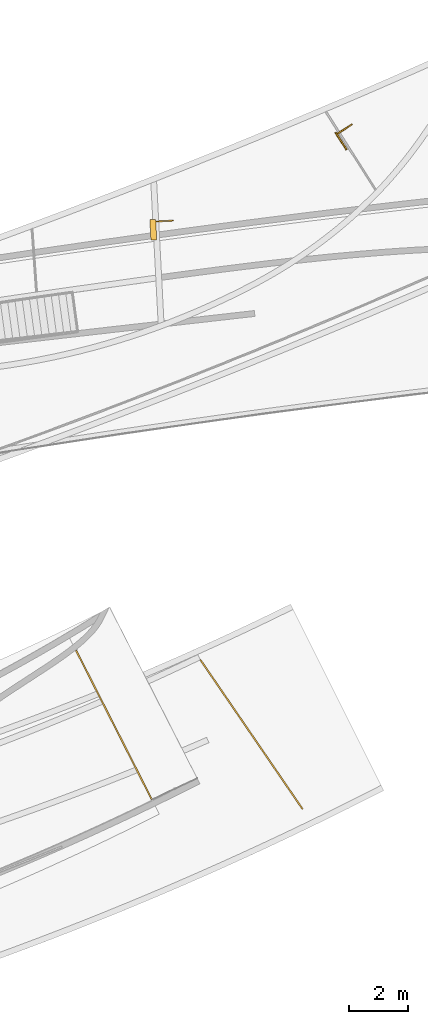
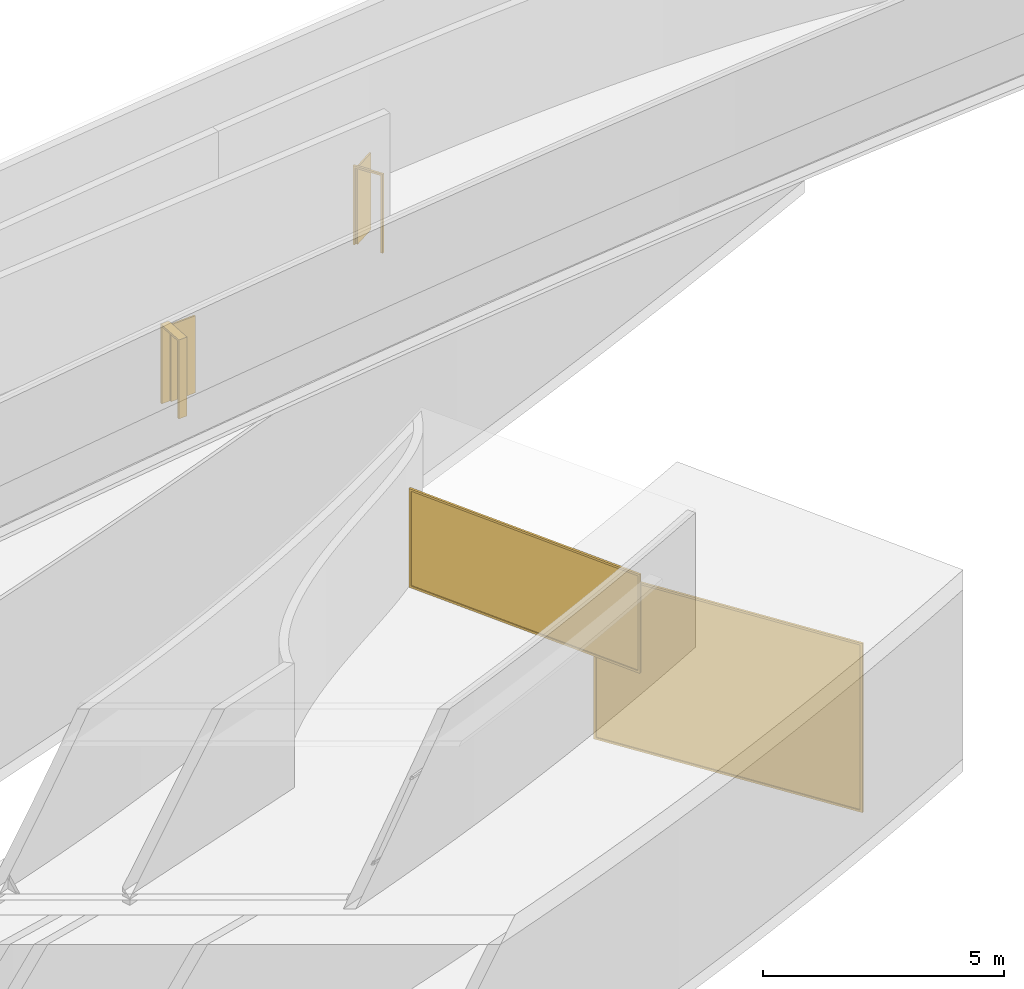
# Not in any storey, part 14 of 16: 2 curtain walls, 2 doors.
"""IFC2X3 model written with IfcOpenShell, lengths in millimetres."""

from ifc_helpers import new_model, entity, si_unit, converted_unit, direction, frame, origin_with_axes, place, context, project, spatial, open_shell, faceted_brep, surface_model, source, transform, mapped, type_object, element, save


model = new_model("IFC2X3")

# Units and contexts
model_context = context("Model", 3, precision=1.0, world=origin_with_axes(), true_north=direction((0.0, 1.0)))
ifc_project = project(units=[converted_unit("PLANEANGLEUNIT", "DEGREE", entity("IfcRatioMeasure", 0.017453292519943), si_unit("PLANEANGLEUNIT", "RADIAN"), dimensions=[0, 0, 0, 0, 0, 0, 0]), si_unit("LENGTHUNIT", "METRE", prefix="MILLI")], contexts=[model_context])

# Site
site_placement = place(None, origin_with_axes())
site = spatial("IfcSite", under=ifc_project, at=site_placement, Name="Site", CompositionType="ELEMENT")

# Doors
door_style_1 = type_object("IfcDoorStyle", Name="Hinged", ConstructionType="NOTDEFINED", OperationType="SINGLE_SWING_LEFT", ParameterTakesPrecedence=True, Sizeable=False)
shared_shape_1 = source(origin_with_axes(), model_context, "Body", "Brep", [
    faceted_brep([(-260.0, 700.0, 0.0), (-300.0, 700.0, 0.0), (-300.0, 700.0, 975.0), (-300.0, 700.0, 1950.0), (-260.0, 700.0, 1950.0), (-260.0, 700.0, 975.0), (-260.0, 100.0, 1950.0), (-300.0, 100.0, 1950.0), (-300.0, 100.0, 975.0), (-300.0, 100.0, 0.0), (-260.0, 100.0, 0.0), (-260.0, 100.0, 975.0), (-300.0, 700.0, 0.0), (-300.0, 400.0, 0.0), (-300.0, 100.0, 0.0), (-300.0, 100.0, 975.0), (-300.0, 100.0, 1950.0), (-300.0, 400.0, 1950.0), (-300.0, 700.0, 1950.0), (-300.0, 700.0, 975.0), (-260.0, 100.0, 0.0), (-300.0, 100.0, 0.0), (-300.0, 400.0, 0.0), (-300.0, 700.0, 0.0), (-260.0, 700.0, 0.0), (-260.0, 400.0, 0.0), (-260.0, 700.0, 1950.0), (-300.0, 700.0, 1950.0), (-300.0, 400.0, 1950.0), (-300.0, 100.0, 1950.0), (-260.0, 100.0, 1950.0), (-260.0, 400.0, 1950.0), (-260.0, 700.0, 975.0), (-260.0, 700.0, 1950.0), (-260.0, 400.0, 1950.0), (-260.0, 100.0, 1950.0), (-260.0, 100.0, 975.0), (-260.0, 100.0, 0.0), (-260.0, 400.0, 0.0), (-260.0, 700.0, 0.0)], [[[0, 1, 2, 3, 4, 5]], [[6, 7, 8, 9, 10, 11]], [[12, 13, 14, 15, 16, 17, 18, 19]], [[20, 21, 22, 23, 24, 25]], [[26, 27, 28, 29, 30, 31]], [[32, 33, 34, 35, 36, 37, 38, 39]]]),
    faceted_brep([(-300.0, -100.0, 975.0), (-300.0, -100.0, 0.0), (-300.0, 0.0, 0.0), (-300.0, 100.0, 0.0), (-300.0, 100.0, 975.0), (-300.0, 100.0, 1950.0), (-300.0, -100.0, 1950.0), (300.0, -100.0, 1950.0), (300.0, 100.0, 1950.0), (300.0, 100.0, 975.0), (300.0, 100.0, 0.0), (300.0, -1.819e-12, 0.0), (300.0, -100.0, 0.0), (300.0, -100.0, 975.0), (-300.0, -100.0, 1950.0), (-300.0, 100.0, 1950.0), (-9.09e-13, 100.0, 1950.0), (300.0, 100.0, 1950.0), (300.0, -100.0, 1950.0), (-9.09e-13, -100.0, 1950.0), (300.0, -100.0, 0.0), (350.0, -100.0, 0.0), (350.0, -100.0, 1000.0), (350.0, -100.0, 2000.0), (-1.819e-12, -100.0, 2000.0), (-350.0, -100.0, 2000.0), (-350.0, -100.0, 1000.0), (-350.0, -100.0, 0.0), (-300.0, -100.0, 0.0), (-300.0, -100.0, 975.0), (-300.0, -100.0, 1950.0), (-9.09e-13, -100.0, 1950.0), (300.0, -100.0, 1950.0), (300.0, -100.0, 975.0), (350.0, -100.0, 0.0), (300.0, -100.0, 0.0), (300.0, -1.819e-12, 0.0), (300.0, 100.0, 0.0), (350.0, 100.0, 0.0), (350.0, 0.0, 0.0), (-350.0, -100.0, 2000.0), (-350.0, 100.0, 2000.0), (-350.0, 100.0, 1000.0), (-350.0, 100.0, 0.0), (-350.0, -1.819e-12, 0.0), (-350.0, -100.0, 0.0), (-350.0, -100.0, 1000.0), (350.0, -100.0, 1000.0), (350.0, -100.0, 0.0), (350.0, 0.0, 0.0), (350.0, 100.0, 0.0), (350.0, 100.0, 1000.0), (350.0, 100.0, 2000.0), (350.0, -100.0, 2000.0), (-300.0, -100.0, 0.0), (-350.0, -100.0, 0.0), (-350.0, -1.819e-12, 0.0), (-350.0, 100.0, 0.0), (-300.0, 100.0, 0.0), (-300.0, 0.0, 0.0), (350.0, -100.0, 2000.0), (350.0, 100.0, 2000.0), (-1.819e-12, 100.0, 2000.0), (-350.0, 100.0, 2000.0), (-350.0, -100.0, 2000.0), (-1.819e-12, -100.0, 2000.0), (350.0, 100.0, 0.0), (300.0, 100.0, 0.0), (300.0, 100.0, 975.0), (300.0, 100.0, 1950.0), (-9.09e-13, 100.0, 1950.0), (-300.0, 100.0, 1950.0), (-300.0, 100.0, 975.0), (-300.0, 100.0, 0.0), (-350.0, 100.0, 0.0), (-350.0, 100.0, 1000.0), (-350.0, 100.0, 2000.0), (-1.819e-12, 100.0, 2000.0), (350.0, 100.0, 2000.0), (350.0, 100.0, 1000.0)], [[[0, 1, 2, 3, 4, 5, 6]], [[7, 8, 9, 10, 11, 12, 13]], [[14, 15, 16, 17, 18, 19]], [[20, 21, 22, 23, 24, 25, 26, 27, 28, 29, 30, 31, 32, 33]], [[34, 35, 36, 37, 38, 39]], [[40, 41, 42, 43, 44, 45, 46]], [[47, 48, 49, 50, 51, 52, 53]], [[54, 55, 56, 57, 58, 59]], [[60, 61, 62, 63, 64, 65]], [[66, 67, 68, 69, 70, 71, 72, 73, 74, 75, 76, 77, 78, 79]]]),
])
door_1_placement = place(site_placement, frame((21443.022780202, 11840.6734797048, 4720.0), z_axis=(0.0, 0.0, 1.0), x_axis=(0.052079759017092, -0.998642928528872, 0.0)))
element("IfcDoor", 1, at=door_1_placement, inside=site, type_object=door_style_1, ObjectType="Hinged", OverallHeight=2000.0, OverallWidth=700.0, context=model_context, shape_type="MappedRepresentation", body=[
    mapped(shared_shape_1, transform((0.0, 0.0, 0.0))),
])
door_style_2 = type_object("IfcDoorStyle", Name="Hinged", ConstructionType="NOTDEFINED", OperationType="SINGLE_SWING_RIGHT", ParameterTakesPrecedence=True, Sizeable=False)
shared_shape_2 = source(origin_with_axes(), model_context, "Body", "Brep", [
    faceted_brep([(-260.0, 625.0, 0.0), (-300.0, 625.0, 0.0), (-300.0, 625.0, 975.0), (-300.0, 625.0, 1950.0), (-260.0, 625.0, 1950.0), (-260.0, 625.0, 975.0), (-260.0, 625.0, 1950.0), (-300.0, 625.0, 1950.0), (-300.0, 325.0, 1950.0), (-300.0, 25.0, 1950.0), (-260.0, 25.0, 1950.0), (-260.0, 325.0, 1950.0), (-260.0, 25.0, 0.0), (-300.0, 25.0, 0.0), (-300.0, 325.0, 0.0), (-300.0, 625.0, 0.0), (-260.0, 625.0, 0.0), (-260.0, 325.0, 0.0), (-260.0, 625.0, 975.0), (-260.0, 625.0, 1950.0), (-260.0, 325.0, 1950.0), (-260.0, 25.0, 1950.0), (-260.0, 25.0, 975.0), (-260.0, 25.0, 0.0), (-260.0, 325.0, 0.0), (-260.0, 625.0, 0.0), (-300.0, 625.0, 0.0), (-300.0, 325.0, 0.0), (-300.0, 25.0, 0.0), (-300.0, 25.0, 975.0), (-300.0, 25.0, 1950.0), (-300.0, 325.0, 1950.0), (-300.0, 625.0, 1950.0), (-300.0, 625.0, 975.0), (-260.0, 25.0, 1950.0), (-300.0, 25.0, 1950.0), (-300.0, 25.0, 975.0), (-300.0, 25.0, 0.0), (-260.0, 25.0, 0.0), (-260.0, 25.0, 975.0)], [[[0, 1, 2, 3, 4, 5]], [[6, 7, 8, 9, 10, 11]], [[12, 13, 14, 15, 16, 17]], [[18, 19, 20, 21, 22, 23, 24, 25]], [[26, 27, 28, 29, 30, 31, 32, 33]], [[34, 35, 36, 37, 38, 39]]]),
    faceted_brep([(-325.0, -25.0, 0.0), (-350.0, -25.0, 0.0), (-350.0, 5.457e-12, 0.0), (-350.0, 25.0, 0.0), (-325.0, 25.0, 0.0), (-300.0, 25.0, 0.0), (-300.0, 1.819e-12, 0.0), (-300.0, -25.0, 0.0), (-300.0, -25.0, 1950.0), (-300.0, 25.0, 1950.0), (9.09e-13, 25.0, 1950.0), (300.0, 25.0, 1950.0), (300.0, -25.0, 1950.0), (9.09e-13, -25.0, 1950.0), (-350.0, -25.0, 2000.0), (-350.0, 25.0, 2000.0), (-350.0, 25.0, 1000.0), (-350.0, 25.0, 0.0), (-350.0, 5.457e-12, 0.0), (-350.0, -25.0, 0.0), (-350.0, -25.0, 1000.0), (350.0, -25.0, 0.0), (350.0, -25.0, 1000.0), (350.0, -25.0, 2000.0), (9.09e-13, -25.0, 2000.0), (-350.0, -25.0, 2000.0), (-350.0, -25.0, 1000.0), (-350.0, -25.0, 0.0), (-325.0, -25.0, 0.0), (-300.0, -25.0, 0.0), (-300.0, -25.0, 975.0), (-300.0, -25.0, 1950.0), (9.09e-13, -25.0, 1950.0), (300.0, -25.0, 1950.0), (300.0, -25.0, 975.0), (300.0, -25.0, 0.0), (325.0, -25.0, 0.0), (300.0, -25.0, 1950.0), (300.0, 25.0, 1950.0), (300.0, 25.0, 975.0), (300.0, 25.0, 0.0), (300.0, 7.276e-12, 0.0), (300.0, -25.0, 0.0), (300.0, -25.0, 975.0), (-300.0, -25.0, 975.0), (-300.0, -25.0, 0.0), (-300.0, 1.819e-12, 0.0), (-300.0, 25.0, 0.0), (-300.0, 25.0, 975.0), (-300.0, 25.0, 1950.0), (-300.0, -25.0, 1950.0), (350.0, -25.0, 1000.0), (350.0, -25.0, 0.0), (350.0, 3.638e-12, 0.0), (350.0, 25.0, 0.0), (350.0, 25.0, 1000.0), (350.0, 25.0, 2000.0), (350.0, -25.0, 2000.0), (325.0, -25.0, 0.0), (300.0, -25.0, 0.0), (300.0, 7.276e-12, 0.0), (300.0, 25.0, 0.0), (325.0, 25.0, 0.0), (350.0, 25.0, 0.0), (350.0, 3.638e-12, 0.0), (350.0, -25.0, 0.0), (350.0, -25.0, 2000.0), (350.0, 25.0, 2000.0), (0.0, 25.0, 2000.0), (-350.0, 25.0, 2000.0), (-350.0, -25.0, 2000.0), (9.09e-13, -25.0, 2000.0), (350.0, 25.0, 1000.0), (350.0, 25.0, 0.0), (325.0, 25.0, 0.0), (300.0, 25.0, 0.0), (300.0, 25.0, 975.0), (300.0, 25.0, 1950.0), (9.09e-13, 25.0, 1950.0), (-300.0, 25.0, 1950.0), (-300.0, 25.0, 975.0), (-300.0, 25.0, 0.0), (-325.0, 25.0, 0.0), (-350.0, 25.0, 0.0), (-350.0, 25.0, 1000.0), (-350.0, 25.0, 2000.0), (0.0, 25.0, 2000.0), (350.0, 25.0, 2000.0)], [[[0, 1, 2, 3, 4, 5, 6, 7]], [[8, 9, 10, 11, 12, 13]], [[14, 15, 16, 17, 18, 19, 20]], [[21, 22, 23, 24, 25, 26, 27, 28, 29, 30, 31, 32, 33, 34, 35, 36]], [[37, 38, 39, 40, 41, 42, 43]], [[44, 45, 46, 47, 48, 49, 50]], [[51, 52, 53, 54, 55, 56, 57]], [[58, 59, 60, 61, 62, 63, 64, 65]], [[66, 67, 68, 69, 70, 71]], [[72, 73, 74, 75, 76, 77, 78, 79, 80, 81, 82, 83, 84, 85, 86, 87]]]),
])
door_2_placement = place(site_placement, frame((27846.3012722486, 14866.1802078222, 4720.0), z_axis=(0.0, 0.0, 1.0), x_axis=(0.536349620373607, -0.843995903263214, 0.0)))
element("IfcDoor", 2, at=door_2_placement, inside=site, type_object=door_style_2, ObjectType="Hinged", OverallHeight=2000.0, OverallWidth=700.0, context=model_context, shape_type="MappedRepresentation", body=[
    mapped(shared_shape_2, transform((0.0, 0.0, 0.0))),
])

# Curtain walls
curtain_wall_type = type_object("IfcCurtainWallType", Name="Single Panel", PredefinedType="USERDEFINED")
shared_shape_3 = source(origin_with_axes(), model_context, "Body", "Brep", [
    faceted_brep([(21374.837890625, -7602.81494140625, 9900.0), (21397.12890625, -7591.494140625, 9900.0), (21419.41796875, -7580.1728515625, 9900.0), (21396.775390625, -7535.59326171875, 9900.0), (20125.833984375, -5033.27392578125, 9900.0), (18854.890625, -2530.9541015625, 9900.0), (18832.248046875, -2486.37451171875, 9900.0), (18809.958984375, -2497.69580078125, 9900.0), (18787.669921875, -2509.01684570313, 9900.0), (18810.3125, -2553.59619140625, 9900.0), (20081.25390625, -5055.916015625, 9900.0), (21352.197265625, -7558.23583984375, 9900.0), (21374.837890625, -7602.81494140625, 9850.0), (21374.837890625, -7602.81494140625, 9900.0), (21352.197265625, -7558.23583984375, 9900.0), (20081.25390625, -5055.916015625, 9900.0), (18810.3125, -2553.59619140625, 9900.0), (18787.669921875, -2509.01684570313, 9900.0), (18787.669921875, -2509.01684570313, 9850.0), (20081.25390625, -5055.916015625, 9850.0), (21419.41796875, -7580.1728515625, 9850.0), (21397.12890625, -7591.494140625, 9850.0), (21374.837890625, -7602.81494140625, 9850.0), (20081.25390625, -5055.916015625, 9850.0), (18787.669921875, -2509.01684570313, 9850.0), (18809.958984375, -2497.69580078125, 9850.0), (18832.248046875, -2486.37451171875, 9850.0), (20125.833984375, -5033.27392578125, 9850.0), (21419.41796875, -7580.1728515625, 9900.0), (21419.41796875, -7580.1728515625, 9850.0), (20125.833984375, -5033.27392578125, 9850.0), (18832.248046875, -2486.37451171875, 9850.0), (18832.248046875, -2486.37451171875, 9900.0), (18854.890625, -2530.9541015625, 9900.0), (20125.833984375, -5033.27392578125, 9900.0), (21396.775390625, -7535.59326171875, 9900.0), (18832.248046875, -2486.37451171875, 9900.0), (18832.248046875, -2486.37451171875, 9850.0), (18809.958984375, -2497.69580078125, 9850.0), (18787.669921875, -2509.01684570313, 9850.0), (18787.669921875, -2509.01684570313, 9900.0), (18809.958984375, -2497.69580078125, 9900.0), (21419.41796875, -7580.1728515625, 9850.0), (21419.41796875, -7580.1728515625, 9900.0), (21397.12890625, -7591.494140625, 9900.0), (21374.837890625, -7602.81494140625, 9900.0), (21374.837890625, -7602.81494140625, 9850.0), (21397.12890625, -7591.494140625, 9850.0)], [[[0, 1, 2, 3, 4, 5, 6, 7, 8, 9, 10, 11]], [[12, 13, 14, 15, 16, 17, 18, 19]], [[20, 21, 22, 23, 24, 25, 26, 27]], [[28, 29, 30, 31, 32, 33, 34, 35]], [[36, 37, 38, 39, 40, 41]], [[42, 43, 44, 45, 46, 47]]]),
    faceted_brep([(18810.3125, -2553.59619140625, 9900.0), (18854.890625, -2530.9541015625, 9900.0), (18854.890625, -2530.9541015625, 11100.0), (18854.890625, -2530.9541015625, 12300.0), (18810.3125, -2553.59619140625, 12300.0), (18810.3125, -2553.59619140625, 11100.0), (18854.890625, -2530.9541015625, 9900.0), (18832.248046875, -2486.37451171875, 9900.0), (18832.248046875, -2486.37451171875, 11100.0), (18832.248046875, -2486.37451171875, 12300.0), (18854.890625, -2530.9541015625, 12300.0), (18854.890625, -2530.9541015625, 11100.0), (18810.3125, -2553.59619140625, 12300.0), (18854.890625, -2530.9541015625, 12300.0), (18832.248046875, -2486.37451171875, 12300.0), (18787.669921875, -2509.01684570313, 12300.0), (18832.248046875, -2486.37451171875, 9900.0), (18787.669921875, -2509.01684570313, 9900.0), (18787.669921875, -2509.01684570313, 11100.0), (18787.669921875, -2509.01684570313, 12300.0), (18832.248046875, -2486.37451171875, 12300.0), (18832.248046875, -2486.37451171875, 11100.0), (18787.669921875, -2509.01684570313, 9900.0), (18810.3125, -2553.59619140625, 9900.0), (18810.3125, -2553.59619140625, 11100.0), (18810.3125, -2553.59619140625, 12300.0), (18787.669921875, -2509.01684570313, 12300.0), (18787.669921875, -2509.01684570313, 11100.0), (18854.890625, -2530.9541015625, 9900.0), (18810.3125, -2553.59619140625, 9900.0), (18787.669921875, -2509.01684570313, 9900.0), (18832.248046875, -2486.37451171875, 9900.0)], [[[0, 1, 2, 3, 4, 5]], [[6, 7, 8, 9, 10, 11]], [[12, 13, 14, 15]], [[16, 17, 18, 19, 20, 21]], [[22, 23, 24, 25, 26, 27]], [[28, 29, 30, 31]]]),
    faceted_brep([(21374.837890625, -7602.81494140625, 12350.0), (21397.12890625, -7591.494140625, 12350.0), (21419.41796875, -7580.1728515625, 12350.0), (20125.833984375, -5033.27392578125, 12350.0), (18832.248046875, -2486.37451171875, 12350.0), (18809.958984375, -2497.69580078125, 12350.0), (18787.669921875, -2509.01684570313, 12350.0), (20081.25390625, -5055.916015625, 12350.0), (21419.41796875, -7580.1728515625, 12300.0), (21397.12890625, -7591.494140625, 12300.0), (21374.837890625, -7602.81494140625, 12300.0), (21352.197265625, -7558.23583984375, 12300.0), (20081.25390625, -5055.916015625, 12300.0), (18810.3125, -2553.59619140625, 12300.0), (18787.669921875, -2509.01684570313, 12300.0), (18809.958984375, -2497.69580078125, 12300.0), (18832.248046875, -2486.37451171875, 12300.0), (18854.890625, -2530.9541015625, 12300.0), (20125.833984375, -5033.27392578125, 12300.0), (21396.775390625, -7535.59326171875, 12300.0), (21374.837890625, -7602.81494140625, 12300.0), (21374.837890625, -7602.81494140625, 12350.0), (20081.25390625, -5055.916015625, 12350.0), (18787.669921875, -2509.01684570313, 12350.0), (18787.669921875, -2509.01684570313, 12300.0), (18810.3125, -2553.59619140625, 12300.0), (20081.25390625, -5055.916015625, 12300.0), (21352.197265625, -7558.23583984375, 12300.0), (18787.669921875, -2509.01684570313, 12300.0), (18787.669921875, -2509.01684570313, 12350.0), (18809.958984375, -2497.69580078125, 12350.0), (18832.248046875, -2486.37451171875, 12350.0), (18832.248046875, -2486.37451171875, 12300.0), (18809.958984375, -2497.69580078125, 12300.0), (21419.41796875, -7580.1728515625, 12350.0), (21419.41796875, -7580.1728515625, 12300.0), (21396.775390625, -7535.59326171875, 12300.0), (20125.833984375, -5033.27392578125, 12300.0), (18854.890625, -2530.9541015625, 12300.0), (18832.248046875, -2486.37451171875, 12300.0), (18832.248046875, -2486.37451171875, 12350.0), (20125.833984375, -5033.27392578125, 12350.0), (21374.837890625, -7602.81494140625, 12350.0), (21374.837890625, -7602.81494140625, 12300.0), (21397.12890625, -7591.494140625, 12300.0), (21419.41796875, -7580.1728515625, 12300.0), (21419.41796875, -7580.1728515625, 12350.0), (21397.12890625, -7591.494140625, 12350.0)], [[[0, 1, 2, 3, 4, 5, 6, 7]], [[8, 9, 10, 11, 12, 13, 14, 15, 16, 17, 18, 19]], [[20, 21, 22, 23, 24, 25, 26, 27]], [[28, 29, 30, 31, 32, 33]], [[34, 35, 36, 37, 38, 39, 40, 41]], [[42, 43, 44, 45, 46, 47]]]),
    faceted_brep([(21374.837890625, -7602.81494140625, 9900.0), (21419.41796875, -7580.1728515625, 9900.0), (21419.41796875, -7580.1728515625, 11100.0), (21419.41796875, -7580.1728515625, 12300.0), (21374.837890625, -7602.81494140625, 12300.0), (21374.837890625, -7602.81494140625, 11100.0), (21352.197265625, -7558.23583984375, 9900.0), (21396.775390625, -7535.59326171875, 9900.0), (21419.41796875, -7580.1728515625, 9900.0), (21374.837890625, -7602.81494140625, 9900.0), (21352.197265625, -7558.23583984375, 9900.0), (21374.837890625, -7602.81494140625, 9900.0), (21374.837890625, -7602.81494140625, 11100.0), (21374.837890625, -7602.81494140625, 12300.0), (21352.197265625, -7558.23583984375, 12300.0), (21352.197265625, -7558.23583984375, 11100.0), (21419.41796875, -7580.1728515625, 9900.0), (21396.775390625, -7535.59326171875, 9900.0), (21396.775390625, -7535.59326171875, 11100.0), (21396.775390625, -7535.59326171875, 12300.0), (21419.41796875, -7580.1728515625, 12300.0), (21419.41796875, -7580.1728515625, 11100.0), (21396.775390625, -7535.59326171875, 9900.0), (21352.197265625, -7558.23583984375, 9900.0), (21352.197265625, -7558.23583984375, 11100.0), (21352.197265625, -7558.23583984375, 12300.0), (21396.775390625, -7535.59326171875, 12300.0), (21396.775390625, -7535.59326171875, 11100.0), (21396.775390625, -7535.59326171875, 12300.0), (21352.197265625, -7558.23583984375, 12300.0), (21374.837890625, -7602.81494140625, 12300.0), (21419.41796875, -7580.1728515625, 12300.0)], [[[0, 1, 2, 3, 4, 5]], [[6, 7, 8, 9]], [[10, 11, 12, 13, 14, 15]], [[16, 17, 18, 19, 20, 21]], [[22, 23, 24, 25, 26, 27]], [[28, 29, 30, 31]]]),
])
shared_shape_4 = source(origin_with_axes(), model_context, "Body", "SurfaceModel", [
    surface_model("IfcShellBasedSurfaceModel", [(0.0, 0.0, 2400.0), (0.0, 0.0, 0.0), (5613.16259765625, 0.0, 0.0), (5613.16259765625, 0.0, 2400.0)], [open_shell([[[0, 1, 2, 3]]])]),
])
shared_shape_5 = source(origin_with_axes(), model_context, "Body", "MappedRepresentation", [
    mapped(shared_shape_3, transform((0.0, 0.0, 0.0))),
    mapped(shared_shape_4, transform((21374.4863180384, -7546.91457624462, 9900.0), x_axis=(-0.45284364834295, 0.891589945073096, 0.0), y_axis=(-0.891589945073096, -0.45284364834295, 0.0), scale=1.0)),
])
curtain_wall_1_placement = place(site_placement, origin_with_axes())
element("IfcCurtainWall", 3, at=curtain_wall_1_placement, inside=site, type_object=curtain_wall_type, ObjectType="Single Panel", context=model_context, shape_type="MappedRepresentation", body=[
    mapped(shared_shape_5, transform((0.0, 0.0, 0.0))),
])
shared_shape_6 = source(origin_with_axes(), model_context, "Body", "SurfaceModel", [
    surface_model("IfcShellBasedSurfaceModel", [(26508.171875, -7871.8779296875, 8950.0), (26508.171875, -7871.8779296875, 4770.0), (23074.07421875, -2857.03295898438, 4770.0), (23074.07421875, -2857.03295898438, 8950.0)], [open_shell([[[0, 1, 2, 3]]])]),
])
shared_shape_7 = source(origin_with_axes(), model_context, "Body", "Brep", [
    faceted_brep([(26557.05078125, -7899.00732421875, 4770.0), (26557.05078125, -7899.00732421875, 4720.0), (24811.75, -5350.33056640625, 4720.0), (23066.451171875, -2801.6533203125, 4720.0), (23066.451171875, -2801.6533203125, 4770.0), (23094.701171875, -2842.90771484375, 4770.0), (24811.75, -5350.33056640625, 4770.0), (26528.80078125, -7857.7529296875, 4770.0), (26557.05078125, -7899.00732421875, 4770.0), (26515.796875, -7927.2578125, 4770.0), (26515.796875, -7927.2578125, 4720.0), (26557.05078125, -7899.00732421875, 4720.0), (26515.796875, -7927.2578125, 4770.0), (26557.05078125, -7899.00732421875, 4770.0), (26528.80078125, -7857.7529296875, 4770.0), (24811.75, -5350.33056640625, 4770.0), (23094.701171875, -2842.90771484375, 4770.0), (23066.451171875, -2801.6533203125, 4770.0), (23025.197265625, -2829.90380859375, 4770.0), (23053.447265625, -2871.15795898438, 4770.0), (24770.49609375, -5378.58056640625, 4770.0), (26487.544921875, -7886.00341796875, 4770.0), (26557.05078125, -7899.00732421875, 4720.0), (26515.796875, -7927.2578125, 4720.0), (24770.49609375, -5378.58056640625, 4720.0), (23025.197265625, -2829.90380859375, 4720.0), (23066.451171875, -2801.6533203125, 4720.0), (24811.75, -5350.33056640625, 4720.0), (26515.796875, -7927.2578125, 4720.0), (26515.796875, -7927.2578125, 4770.0), (26487.544921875, -7886.00341796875, 4770.0), (24770.49609375, -5378.58056640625, 4770.0), (23053.447265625, -2871.15795898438, 4770.0), (23025.197265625, -2829.90380859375, 4770.0), (23025.197265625, -2829.90380859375, 4720.0), (24770.49609375, -5378.58056640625, 4720.0), (23025.197265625, -2829.90380859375, 4770.0), (23066.451171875, -2801.6533203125, 4770.0), (23066.451171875, -2801.6533203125, 4720.0), (23025.197265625, -2829.90380859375, 4720.0)], [[[0, 1, 2, 3, 4, 5, 6, 7]], [[8, 9, 10, 11]], [[12, 13, 14, 15, 16, 17, 18, 19, 20, 21]], [[22, 23, 24, 25, 26, 27]], [[28, 29, 30, 31, 32, 33, 34, 35]], [[36, 37, 38, 39]]]),
    faceted_brep([(26515.796875, -7927.2578125, 8950.0), (26515.796875, -7927.2578125, 9000.0), (24770.49609375, -5378.58056640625, 9000.0), (23025.197265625, -2829.90380859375, 9000.0), (23025.197265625, -2829.90380859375, 8950.0), (23053.447265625, -2871.15795898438, 8950.0), (24770.49609375, -5378.58056640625, 8950.0), (26487.544921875, -7886.00341796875, 8950.0), (26515.796875, -7927.2578125, 9000.0), (26557.05078125, -7899.00732421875, 9000.0), (24811.75, -5350.33056640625, 9000.0), (23066.451171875, -2801.6533203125, 9000.0), (23025.197265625, -2829.90380859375, 9000.0), (24770.49609375, -5378.58056640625, 9000.0), (26515.796875, -7927.2578125, 8950.0), (26557.05078125, -7899.00732421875, 8950.0), (26557.05078125, -7899.00732421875, 9000.0), (26515.796875, -7927.2578125, 9000.0), (26557.05078125, -7899.00732421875, 9000.0), (26557.05078125, -7899.00732421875, 8950.0), (26528.80078125, -7857.7529296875, 8950.0), (24811.75, -5350.33056640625, 8950.0), (23094.701171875, -2842.90771484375, 8950.0), (23066.451171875, -2801.6533203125, 8950.0), (23066.451171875, -2801.6533203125, 9000.0), (24811.75, -5350.33056640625, 9000.0), (26557.05078125, -7899.00732421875, 8950.0), (26515.796875, -7927.2578125, 8950.0), (26487.544921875, -7886.00341796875, 8950.0), (24770.49609375, -5378.58056640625, 8950.0), (23053.447265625, -2871.15795898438, 8950.0), (23025.197265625, -2829.90380859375, 8950.0), (23066.451171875, -2801.6533203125, 8950.0), (23094.701171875, -2842.90771484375, 8950.0), (24811.75, -5350.33056640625, 8950.0), (26528.80078125, -7857.7529296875, 8950.0), (23066.451171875, -2801.6533203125, 8950.0), (23025.197265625, -2829.90380859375, 8950.0), (23025.197265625, -2829.90380859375, 9000.0), (23066.451171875, -2801.6533203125, 9000.0)], [[[0, 1, 2, 3, 4, 5, 6, 7]], [[8, 9, 10, 11, 12, 13]], [[14, 15, 16, 17]], [[18, 19, 20, 21, 22, 23, 24, 25]], [[26, 27, 28, 29, 30, 31, 32, 33, 34, 35]], [[36, 37, 38, 39]]]),
    faceted_brep([(26528.80078125, -7857.7529296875, 4770.0), (26508.171875, -7871.8779296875, 4770.0), (26487.544921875, -7886.00341796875, 4770.0), (26487.544921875, -7886.00341796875, 6860.0), (26487.544921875, -7886.00341796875, 8950.0), (26508.171875, -7871.8779296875, 8950.0), (26528.80078125, -7857.7529296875, 8950.0), (26528.80078125, -7857.7529296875, 6860.0), (26487.544921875, -7886.00341796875, 4770.0), (26501.669921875, -7906.63037109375, 4770.0), (26515.796875, -7927.2578125, 4770.0), (26515.796875, -7927.2578125, 6860.0), (26515.796875, -7927.2578125, 8950.0), (26501.669921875, -7906.63037109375, 8950.0), (26487.544921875, -7886.00341796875, 8950.0), (26487.544921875, -7886.00341796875, 6860.0), (26487.544921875, -7886.00341796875, 4770.0), (26508.171875, -7871.8779296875, 4770.0), (26528.80078125, -7857.7529296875, 4770.0), (26542.92578125, -7878.3798828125, 4770.0), (26557.05078125, -7899.00732421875, 4770.0), (26515.796875, -7927.2578125, 4770.0), (26501.669921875, -7906.63037109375, 4770.0), (26487.544921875, -7886.00341796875, 8950.0), (26501.669921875, -7906.63037109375, 8950.0), (26515.796875, -7927.2578125, 8950.0), (26557.05078125, -7899.00732421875, 8950.0), (26542.92578125, -7878.3798828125, 8950.0), (26528.80078125, -7857.7529296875, 8950.0), (26508.171875, -7871.8779296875, 8950.0), (26515.796875, -7927.2578125, 4770.0), (26557.05078125, -7899.00732421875, 4770.0), (26557.05078125, -7899.00732421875, 6860.0), (26557.05078125, -7899.00732421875, 8950.0), (26515.796875, -7927.2578125, 8950.0), (26515.796875, -7927.2578125, 6860.0), (26557.05078125, -7899.00732421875, 4770.0), (26542.92578125, -7878.3798828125, 4770.0), (26528.80078125, -7857.7529296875, 4770.0), (26528.80078125, -7857.7529296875, 6860.0), (26528.80078125, -7857.7529296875, 8950.0), (26542.92578125, -7878.3798828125, 8950.0), (26557.05078125, -7899.00732421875, 8950.0), (26557.05078125, -7899.00732421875, 6860.0)], [[[0, 1, 2, 3, 4, 5, 6, 7]], [[8, 9, 10, 11, 12, 13, 14, 15]], [[16, 17, 18, 19, 20, 21, 22]], [[23, 24, 25, 26, 27, 28, 29]], [[30, 31, 32, 33, 34, 35]], [[36, 37, 38, 39, 40, 41, 42, 43]]]),
    faceted_brep([(23025.197265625, -2829.90380859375, 4770.0), (23039.322265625, -2850.53100585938, 4770.0), (23053.447265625, -2871.15795898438, 4770.0), (23053.447265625, -2871.15795898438, 6860.0), (23053.447265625, -2871.15795898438, 8950.0), (23039.322265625, -2850.53100585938, 8950.0), (23025.197265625, -2829.90380859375, 8950.0), (23025.197265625, -2829.90380859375, 6860.0), (23094.701171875, -2842.90771484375, 4770.0), (23053.447265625, -2871.15795898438, 4770.0), (23039.322265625, -2850.53100585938, 4770.0), (23025.197265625, -2829.90380859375, 4770.0), (23066.451171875, -2801.6533203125, 4770.0), (23080.576171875, -2822.28051757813, 4770.0), (23094.701171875, -2842.90771484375, 4770.0), (23080.576171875, -2822.28051757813, 4770.0), (23066.451171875, -2801.6533203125, 4770.0), (23066.451171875, -2801.6533203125, 6860.0), (23066.451171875, -2801.6533203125, 8950.0), (23080.576171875, -2822.28051757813, 8950.0), (23094.701171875, -2842.90771484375, 8950.0), (23094.701171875, -2842.90771484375, 6860.0), (23053.447265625, -2871.15795898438, 8950.0), (23094.701171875, -2842.90771484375, 8950.0), (23080.576171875, -2822.28051757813, 8950.0), (23066.451171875, -2801.6533203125, 8950.0), (23025.197265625, -2829.90380859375, 8950.0), (23039.322265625, -2850.53100585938, 8950.0), (23053.447265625, -2871.15795898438, 4770.0), (23094.701171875, -2842.90771484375, 4770.0), (23094.701171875, -2842.90771484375, 6860.0), (23094.701171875, -2842.90771484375, 8950.0), (23053.447265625, -2871.15795898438, 8950.0), (23053.447265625, -2871.15795898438, 6860.0), (23066.451171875, -2801.6533203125, 4770.0), (23025.197265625, -2829.90380859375, 4770.0), (23025.197265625, -2829.90380859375, 6860.0), (23025.197265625, -2829.90380859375, 8950.0), (23066.451171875, -2801.6533203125, 8950.0), (23066.451171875, -2801.6533203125, 6860.0)], [[[0, 1, 2, 3, 4, 5, 6, 7]], [[8, 9, 10, 11, 12, 13]], [[14, 15, 16, 17, 18, 19, 20, 21]], [[22, 23, 24, 25, 26, 27]], [[28, 29, 30, 31, 32, 33]], [[34, 35, 36, 37, 38, 39]]]),
])
shared_shape_8 = source(origin_with_axes(), model_context, "Body", "MappedRepresentation", [
    mapped(shared_shape_6, transform((0.0, 0.0, 0.0))),
    mapped(shared_shape_7, transform((0.0, 0.0, 0.0))),
])
curtain_wall_2_placement = place(site_placement, origin_with_axes())
element("IfcCurtainWall", 4, at=curtain_wall_2_placement, inside=site, type_object=curtain_wall_type, ObjectType="Single Panel", context=model_context, shape_type="MappedRepresentation", body=[
    mapped(shared_shape_8, transform((0.0, 0.0, 0.0))),
])

save(model, "model.ifc")
